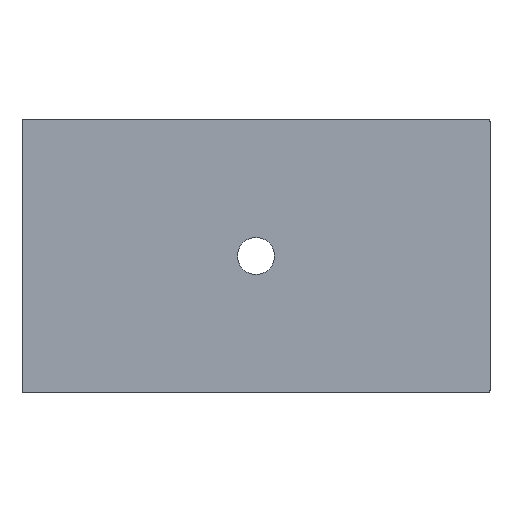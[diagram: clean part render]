
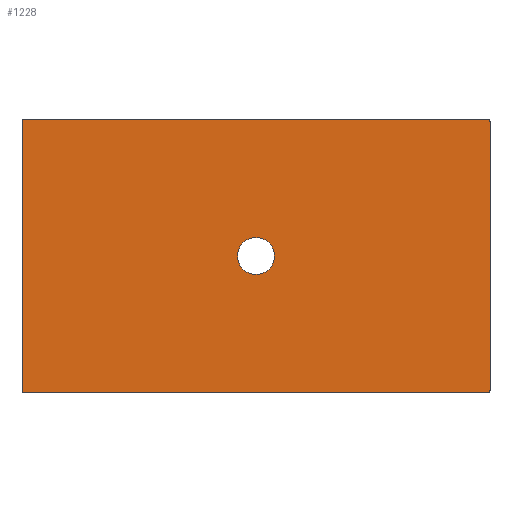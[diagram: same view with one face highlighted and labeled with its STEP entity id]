
A CAD part, front view. The second image highlights one B-rep face of the part: STEP entity #1228.
In plain terms, the highlighted planar face has unit normal (0, -1, 0).
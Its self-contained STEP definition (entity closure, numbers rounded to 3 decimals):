
#151 = VERTEX_POINT ( 'NONE', #1354 ) ;
#186 = ORIENTED_EDGE ( 'NONE', *, *, #1431, .T. ) ;
#221 = LINE ( 'NONE', #1153, #2163 ) ;
#236 = CARTESIAN_POINT ( 'NONE',  ( -600., 0., 350. ) ) ;
#264 = ORIENTED_EDGE ( 'NONE', *, *, #419, .T. ) ;
#342 = VERTEX_POINT ( 'NONE', #1800 ) ;
#353 =( BOUNDED_CURVE ( )  B_SPLINE_CURVE ( 3, ( #1556, #607, #2114, #2344 ),
 .UNSPECIFIED., .F., .F. ) 
 B_SPLINE_CURVE_WITH_KNOTS ( ( 4, 4 ),
 ( 5.498, 7.068 ),
 .UNSPECIFIED. ) 
 CURVE ( )  GEOMETRIC_REPRESENTATION_ITEM ( )  RATIONAL_B_SPLINE_CURVE ( ( 1., 0.805, 0.805, 1. ) ) 
 REPRESENTATION_ITEM ( '' )  );
#380 = CARTESIAN_POINT ( 'NONE',  ( -595.001, 0., -350. ) ) ;
#399 = CARTESIAN_POINT ( 'NONE',  ( 600., 0., 350. ) ) ;
#400 = ORIENTED_EDGE ( 'NONE', *, *, #2253, .F. ) ;
#403 = EDGE_CURVE ( 'NONE', #342, #678, #2411, .T. ) ;
#419 = EDGE_CURVE ( 'NONE', #866, #2531, #2098, .T. ) ;
#512 = PLANE ( 'NONE',  #2416 ) ;
#531 = CARTESIAN_POINT ( 'NONE',  ( 600., 0., 345.001 ) ) ;
#547 = VERTEX_POINT ( 'NONE', #2259 ) ;
#594 = DIRECTION ( 'NONE',  ( 0., 0., -1. ) ) ;
#607 = CARTESIAN_POINT ( 'NONE',  ( -597.929, 0., 350. ) ) ;
#659 = CARTESIAN_POINT ( 'NONE',  ( 600., 0., -345.001 ) ) ;
#678 = VERTEX_POINT ( 'NONE', #2146 ) ;
#688 = DIRECTION ( 'NONE',  ( -1., 0., 0. ) ) ;
#700 = CARTESIAN_POINT ( 'NONE',  ( 600., 0., -350. ) ) ;
#703 = VECTOR ( 'NONE', #1690, 1000. ) ;
#763 = ORIENTED_EDGE ( 'NONE', *, *, #1805, .F. ) ;
#799 = CARTESIAN_POINT ( 'NONE',  ( -597.929, 0., -350. ) ) ;
#866 = VERTEX_POINT ( 'NONE', #1330 ) ;
#908 = EDGE_LOOP ( 'NONE', ( #400 ) ) ;
#946 = DIRECTION ( 'NONE',  ( 0., 1., 0. ) ) ;
#1033 = CARTESIAN_POINT ( 'NONE',  ( 600., 0., -345.001 ) ) ;
#1053 = ORIENTED_EDGE ( 'NONE', *, *, #2063, .F. ) ;
#1118 = FACE_OUTER_BOUND ( 'NONE', #1257, .T. ) ;
#1153 = CARTESIAN_POINT ( 'NONE',  ( -600., 0., -350. ) ) ;
#1161 = VERTEX_POINT ( 'NONE', #1756 ) ;
#1176 = CARTESIAN_POINT ( 'NONE',  ( -600., 0., -345.001 ) ) ;
#1183 = AXIS2_PLACEMENT_3D ( 'NONE', #1567, #2425, #1386 ) ;
#1228 = ADVANCED_FACE ( 'NONE', ( #1310, #1118 ), #512, .F. ) ;
#1242 = ORIENTED_EDGE ( 'NONE', *, *, #1959, .T. ) ;
#1253 = CARTESIAN_POINT ( 'NONE',  ( 595.001, 0., -350. ) ) ;
#1257 = EDGE_LOOP ( 'NONE', ( #1273, #2233, #1053, #264, #763, #1242, #1713, #186 ) ) ;
#1273 = ORIENTED_EDGE ( 'NONE', *, *, #403, .F. ) ;
#1282 = CARTESIAN_POINT ( 'NONE',  ( 597.929, 0., 350. ) ) ;
#1297 =( BOUNDED_CURVE ( )  B_SPLINE_CURVE ( 3, ( #1253, #1799, #1784, #659 ),
 .UNSPECIFIED., .F., .T. ) 
 B_SPLINE_CURVE_WITH_KNOTS ( ( 4, 4 ),
 ( 5.498, 7.068 ),
 .UNSPECIFIED. ) 
 CURVE ( )  GEOMETRIC_REPRESENTATION_ITEM ( )  RATIONAL_B_SPLINE_CURVE ( ( 1., 0.805, 0.805, 1. ) ) 
 REPRESENTATION_ITEM ( '' )  );
#1310 = FACE_BOUND ( 'NONE', #908, .T. ) ;
#1330 = CARTESIAN_POINT ( 'NONE',  ( 600., 0., 345.001 ) ) ;
#1354 = CARTESIAN_POINT ( 'NONE',  ( -600., 0., -345.001 ) ) ;
#1386 = DIRECTION ( 'NONE',  ( 0., 0., -1. ) ) ;
#1431 = EDGE_CURVE ( 'NONE', #151, #678, #1744, .T. ) ;
#1477 = CARTESIAN_POINT ( 'NONE',  ( 0., 0., 0. ) ) ;
#1533 = CARTESIAN_POINT ( 'NONE',  ( 595.001, 0., 350. ) ) ;
#1556 = CARTESIAN_POINT ( 'NONE',  ( -595.001, 0., 350. ) ) ;
#1558 = CARTESIAN_POINT ( 'NONE',  ( -600., 0., -347.929 ) ) ;
#1567 = CARTESIAN_POINT ( 'NONE',  ( 0., 0., 0. ) ) ;
#1651 = VERTEX_POINT ( 'NONE', #2497 ) ;
#1688 = DIRECTION ( 'NONE',  ( 0., 0., 1. ) ) ;
#1690 = DIRECTION ( 'NONE',  ( 1., 0., 0. ) ) ;
#1697 = CARTESIAN_POINT ( 'NONE',  ( 595.001, 0., 350. ) ) ;
#1713 = ORIENTED_EDGE ( 'NONE', *, *, #2045, .F. ) ;
#1735 = DIRECTION ( 'NONE',  ( 0., 0., 1. ) ) ;
#1744 =( BOUNDED_CURVE ( )  B_SPLINE_CURVE ( 3, ( #1176, #1558, #799, #380 ),
 .UNSPECIFIED., .F., .T. ) 
 B_SPLINE_CURVE_WITH_KNOTS ( ( 4, 4 ),
 ( 5.498, 7.068 ),
 .UNSPECIFIED. ) 
 CURVE ( )  GEOMETRIC_REPRESENTATION_ITEM ( )  RATIONAL_B_SPLINE_CURVE ( ( 1., 0.805, 0.805, 1. ) ) 
 REPRESENTATION_ITEM ( '' )  );
#1756 = CARTESIAN_POINT ( 'NONE',  ( 0., 0., -47.5 ) ) ;
#1784 = CARTESIAN_POINT ( 'NONE',  ( 600., 0., -347.929 ) ) ;
#1799 = CARTESIAN_POINT ( 'NONE',  ( 597.929, 0., -350. ) ) ;
#1800 = CARTESIAN_POINT ( 'NONE',  ( 595.001, 0., -350. ) ) ;
#1805 = EDGE_CURVE ( 'NONE', #547, #2531, #1983, .T. ) ;
#1959 = EDGE_CURVE ( 'NONE', #547, #1651, #353, .T. ) ;
#1983 = LINE ( 'NONE', #236, #703 ) ;
#2045 = EDGE_CURVE ( 'NONE', #151, #1651, #221, .T. ) ;
#2063 = EDGE_CURVE ( 'NONE', #866, #2387, #2368, .T. ) ;
#2098 =( BOUNDED_CURVE ( )  B_SPLINE_CURVE ( 3, ( #531, #2478, #1282, #1697 ),
 .UNSPECIFIED., .F., .F. ) 
 B_SPLINE_CURVE_WITH_KNOTS ( ( 4, 4 ),
 ( 5.498, 7.068 ),
 .UNSPECIFIED. ) 
 CURVE ( )  GEOMETRIC_REPRESENTATION_ITEM ( )  RATIONAL_B_SPLINE_CURVE ( ( 1., 0.805, 0.805, 1. ) ) 
 REPRESENTATION_ITEM ( '' )  );
#2114 = CARTESIAN_POINT ( 'NONE',  ( -600., 0., 347.929 ) ) ;
#2146 = CARTESIAN_POINT ( 'NONE',  ( -595.001, 0., -350. ) ) ;
#2163 = VECTOR ( 'NONE', #1735, 1000. ) ;
#2166 = CIRCLE ( 'NONE', #1183, 47.5 ) ;
#2233 = ORIENTED_EDGE ( 'NONE', *, *, #2300, .T. ) ;
#2253 = EDGE_CURVE ( 'NONE', #1161, #1161, #2166, .T. ) ;
#2259 = CARTESIAN_POINT ( 'NONE',  ( -595.001, 0., 350. ) ) ;
#2288 = VECTOR ( 'NONE', #688, 1000. ) ;
#2300 = EDGE_CURVE ( 'NONE', #342, #2387, #1297, .T. ) ;
#2344 = CARTESIAN_POINT ( 'NONE',  ( -600., 0., 345.001 ) ) ;
#2368 = LINE ( 'NONE', #399, #2500 ) ;
#2387 = VERTEX_POINT ( 'NONE', #1033 ) ;
#2411 = LINE ( 'NONE', #700, #2288 ) ;
#2416 = AXIS2_PLACEMENT_3D ( 'NONE', #1477, #946, #1688 ) ;
#2425 = DIRECTION ( 'NONE',  ( 0., -1., 0. ) ) ;
#2478 = CARTESIAN_POINT ( 'NONE',  ( 600., 0., 347.929 ) ) ;
#2497 = CARTESIAN_POINT ( 'NONE',  ( -600., 0., 345.001 ) ) ;
#2500 = VECTOR ( 'NONE', #594, 1000. ) ;
#2531 = VERTEX_POINT ( 'NONE', #1533 ) ;
